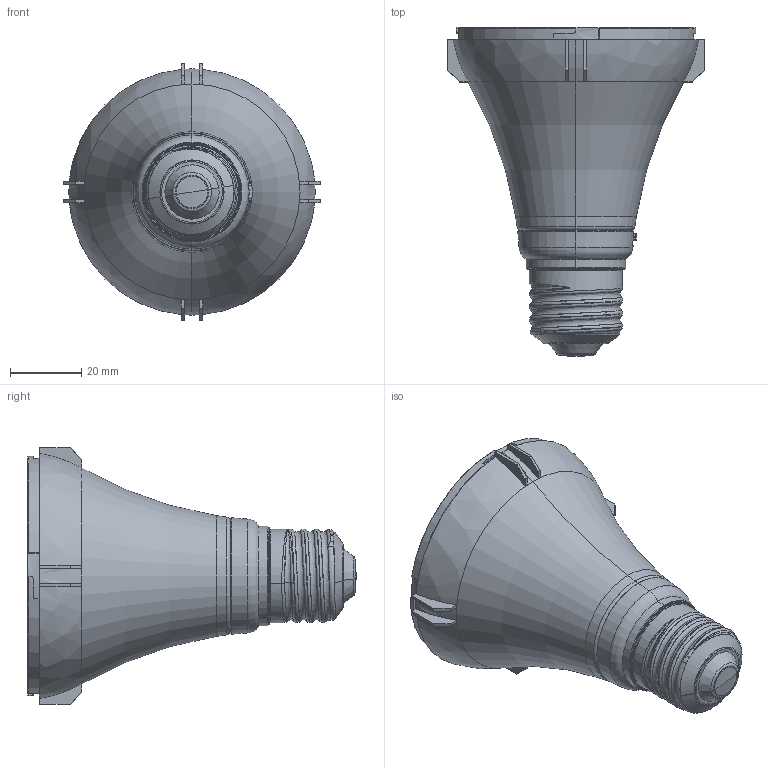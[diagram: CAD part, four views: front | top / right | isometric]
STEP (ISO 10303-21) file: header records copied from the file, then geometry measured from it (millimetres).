
FILE_DESCRIPTION(('FreeCAD Model'),'2;1');
FILE_NAME('Open CASCADE Shape Model','2024-08-30T09:53:53',( 'Lukas Balthasar Pank'),('Astera LED Technology GmbH'), 'Open CASCADE STEP processor 7.6','FreeCAD','Unknown');
FILE_SCHEMA(('AUTOMOTIVE_DESIGN { 1 0 10303 214 1 1 1 1 }'));
Length unit declared in the file: millimetre
Products named in the file (16): FP7+FP7-LRF_LunaBulb+LunaReflector_3D-STEP; LunaBulb; Lamp cup-L; inner diffuser holder; release button; spring; LunaBulb_InnerDome; LunaBulb_E27; LunaReflector; Reflector White Look; reflector cup-; Reflector cup
Assembly tree (17 placements, depth 4):
  FP7+FP7-LRF_LunaBulb+LunaReflector_3D-STEP
    LunaBulb
      Lamp cup-L
      inner diffuser holder
      release button
      spring
        spring
        spring
      spring
        spring
        spring
    LunaBulb_InnerDome
    LunaBulb_E27
    LunaReflector
      LunaReflector
        Reflector White Look
        reflector cup-
      Reflector cup
Bounding box: 72.07 x 92.2 x 72.07 mm (x, y, z)
Volume: 31391 mm3; surface area: 57283.9 mm2
Topology: 8 solids, 12 shells, 5131 faces, 13979 edges, 9248 vertices
Faces by surface type: bspline 2573, plane 1429, cylinder 888, cone 109, torus 90, sphere 34, revolution 8
Entity records: 220468 total; most frequent: CARTESIAN_POINT 113293, ORIENTED_EDGE 27922, EDGE_CURVE 13963, DIRECTION 12408, VERTEX_POINT 9240, B_SPLINE_CURVE_WITH_KNOTS 8837, FACE_BOUND 5519, EDGE_LOOP 5519
